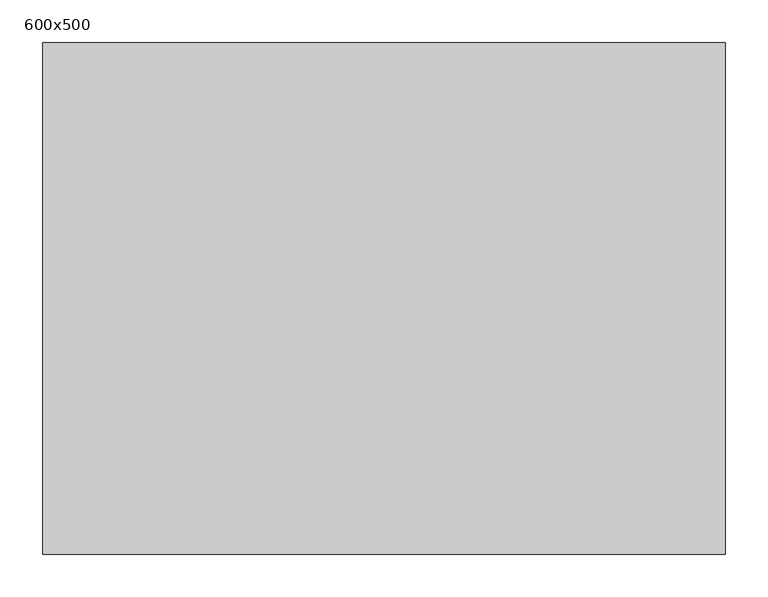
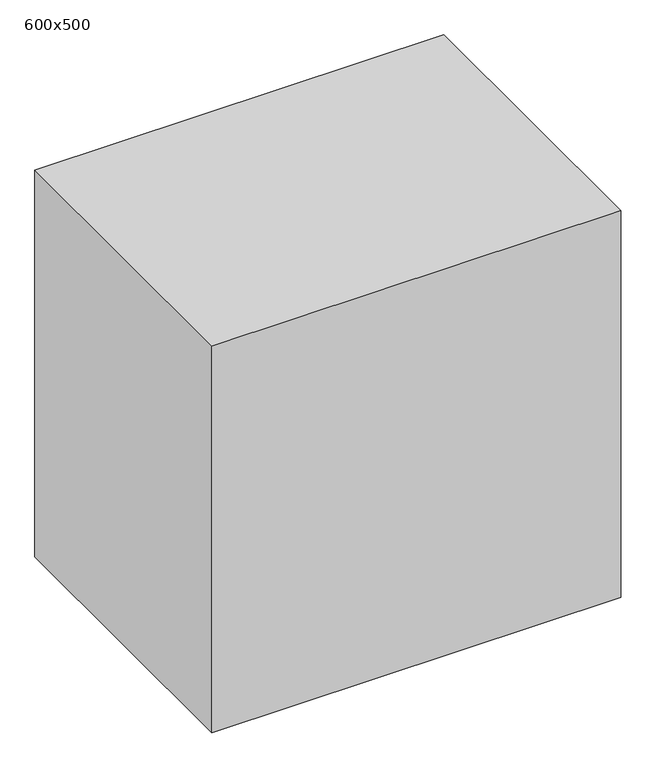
"""IFC4 building model written with IfcOpenShell, lengths in millimetres: flow terminal geometry, SP_раковина_LEG_настраиваемая : 600x500."""

from ifc_helpers import new_model, si_unit, origin, origin_with_axes, place, context, project, spatial, polyline, outline, extrude, source, transform, mapped, element, save


def flow_terminal_600x500_0679050d(model_context):
    return source(origin(), model_context, "Body", "SweptSolid", [
        extrude(outline(polyline([(400.0, 0.0), (400.0, -600.0), (-400.0, -600.0), (-400.0, 0.0), (400.0, 0.0)])), origin_with_axes(), (0.0, 0.0, 1.0), 800.0),
    ])


if __name__ == "__main__":
    model = new_model("IFC4")
    model_context = context("Model", 3, world=origin())
    ifc_project = project(units=[si_unit("LENGTHUNIT", "METRE", prefix="MILLI")], contexts=[model_context])
    site = spatial("IfcSite", under=ifc_project)
    building = spatial("IfcBuilding", under=site)
    placement = place(None, origin())
    flow_terminal_600x500_shape = flow_terminal_600x500_0679050d(model_context)
    element("IfcFlowTerminal", 1, ObjectType="SP_раковина_LEG_настраиваемая : 600x500", at=placement, inside=building, context=model_context, shape_type="MappedRepresentation", body=[
        mapped(flow_terminal_600x500_shape, transform((0.0, 0.0, 0.0), x_axis=(1.0, 0.0, 0.0), y_axis=(0.0, 1.0, 0.0), z_axis=(0.0, 0.0, 1.0))),
    ])
    save(model, "model.ifc")
